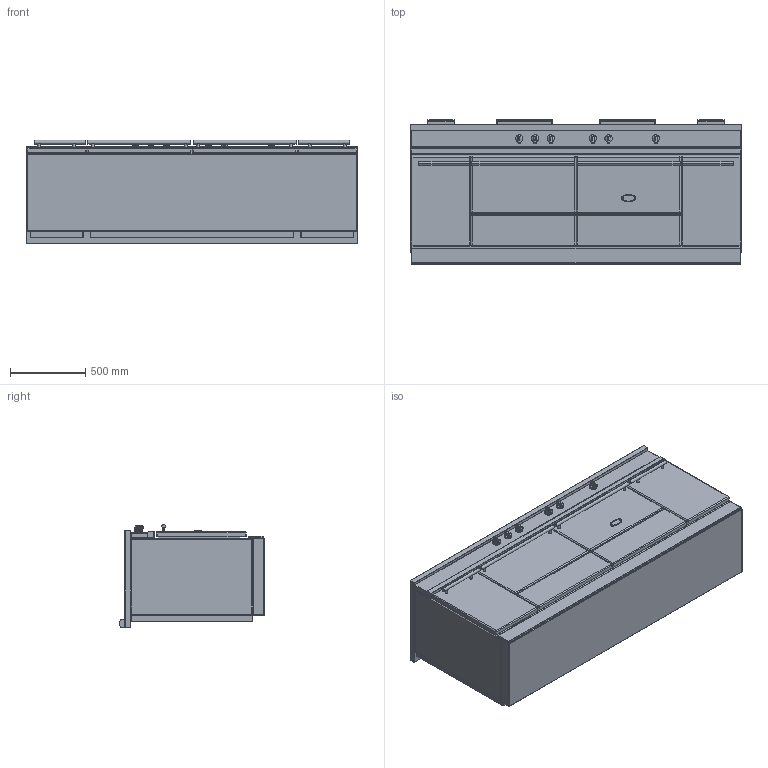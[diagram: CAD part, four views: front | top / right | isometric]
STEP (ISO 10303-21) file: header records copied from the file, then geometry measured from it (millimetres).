
FILE_DESCRIPTION((''),'2;1');
FILE_NAME('LMVTR2242_ASM','2022-04-13T11:58:09',('stagiaire'),(''),'CREO PARAMETRIC BY PTC INC, 2021424','CREO PARAMETRIC BY PTC INC, 2021424','');
FILE_SCHEMA(('AP203_CONFIGURATION_CONTROLLED_3D_DESIGN_OF_MECHANICAL_PARTS_AND_ASSEMBLIES_MIM_LF { 1 0 10303 403 2 1 2 }'));
Products named in the file (13): BASE_EXPORT_SULLY_LMVTR2242; 65049009; 65650001; 65064012; 19150009; 88064012_ASM; BASE_EXPORT_SULLY_LMVTR2242_ASM; TABLE_SULLY_2200_INDUCTION_VTR; 65052002; CHEMINEE_2020_LG371_EXPORT_STEP; CHEMINEE_2020_LG182_EXPORT_STEP; TABLE_SULLY_2200_VTR_ASM; LMVTR2242_ASM
Assembly tree (19 placements, depth 4):
  LMVTR2242_ASM
    BASE_EXPORT_SULLY_LMVTR2242_ASM
      BASE_EXPORT_SULLY_LMVTR2242
      65049009
      65650001
      88064012_ASM  x6
        65064012
        19150009
    TABLE_SULLY_2200_VTR_ASM
      TABLE_SULLY_2200_INDUCTION_VTR
      65052002
      CHEMINEE_2020_LG371_EXPORT_STEP  x2
      CHEMINEE_2020_LG182_EXPORT_STEP  x2
Bounding box: 2205 x 963 x 688.5 mm (x, y, z)
Volume: 1191832803.6 mm3; surface area: 16506339.6 mm2
Topology: 25 solids, 25 shells, 3025 faces, 8749 edges, 5570 vertices
Faces by surface type: cylinder 1238, plane 1201, sphere 242, bspline 230, torus 82, cone 30, extrusion 2
Entity records: 65523 total; most frequent: CARTESIAN_POINT 17232, DIRECTION 8743, ORIENTED_EDGE 8398, EDGE_CURVE 4199, AXIS2_PLACEMENT_3D 2921, VECTOR 2865, LINE 2863, VERTEX_POINT 2645
